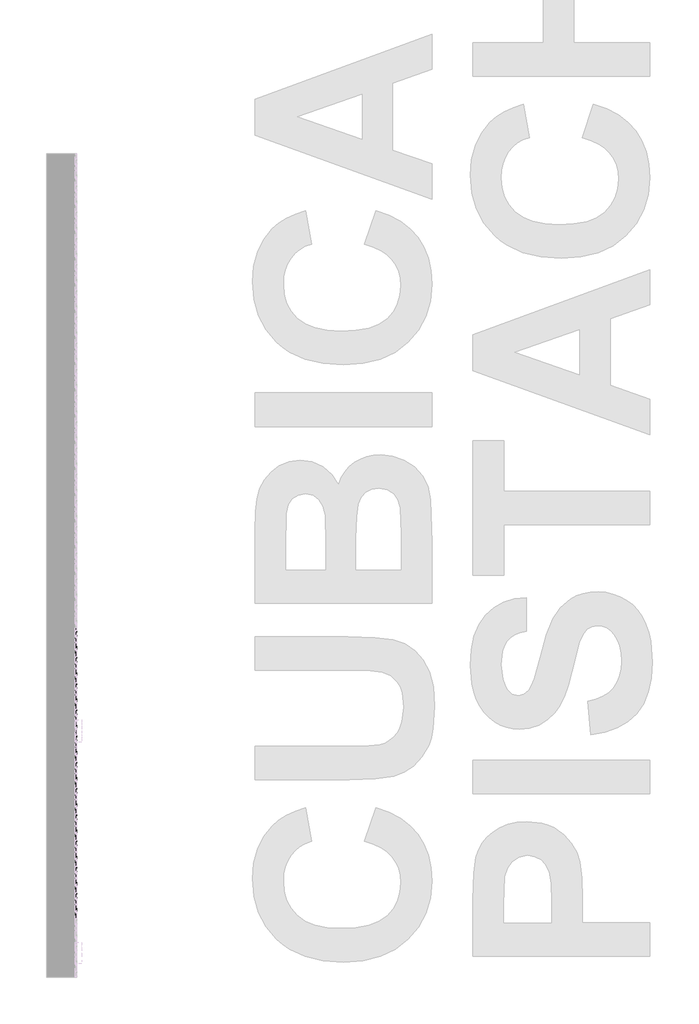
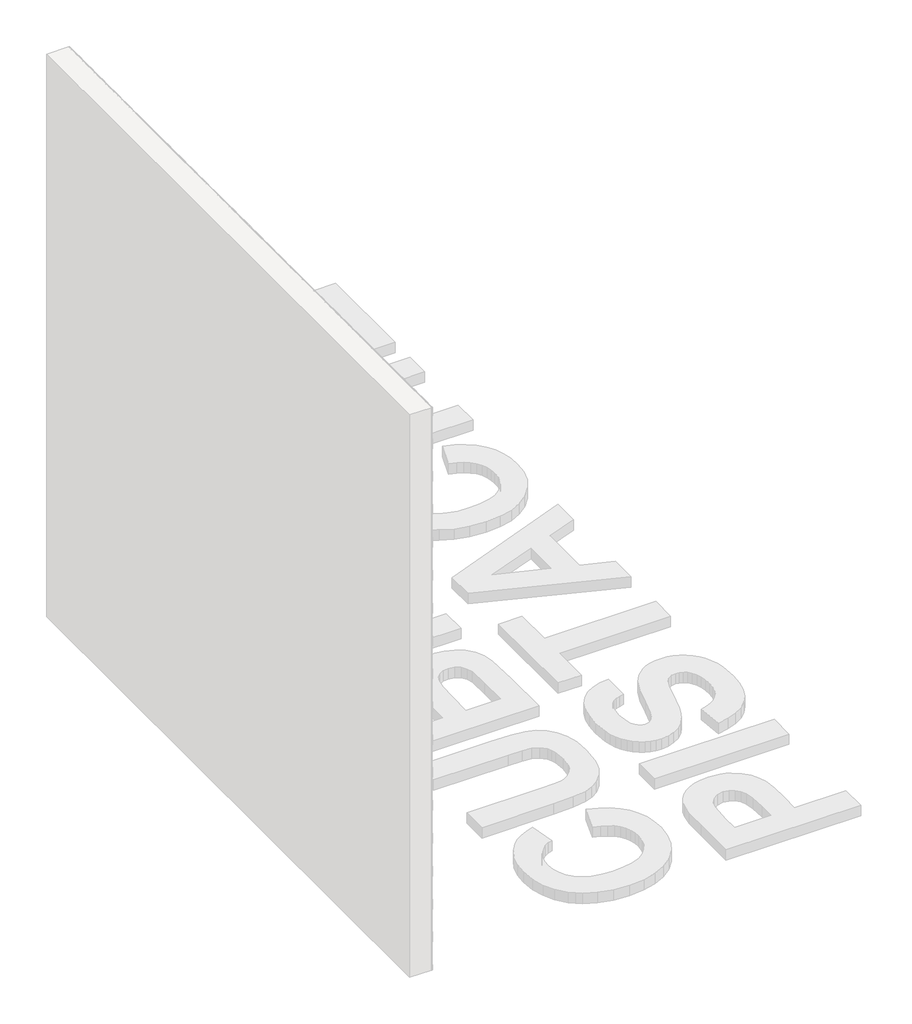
# One storey, part 79 of 121: 145 proxies.
"""IFC4 building model written with IfcOpenShell, lengths in millimetres."""

from ifc_helpers import new_model, si_unit, origin, place, context, project, spatial, transform, mapped, element, save
from components import generic_models_b2b2c5c1, generic_models_9bf73f6f, generic_models_5d175859

model = new_model("IFC4")

# Units and contexts
model_context = context("Model", 3, world=origin())
ifc_project = project(units=[si_unit("LENGTHUNIT", "METRE", prefix="MILLI")], contexts=[model_context])

# Site, building, storey
site = spatial("IfcSite", under=ifc_project)
building = spatial("IfcBuilding", under=site)
storey = spatial("IfcBuildingStorey", under=building, Name="PORTOBELLO - SHOWROOM", Elevation=0.0)

# Proxies
placement = place(None, origin())
generic_models_shape = generic_models_b2b2c5c1(model_context)
element("IfcBuildingElementProxy", 1, Name="PBSHOP - CUBICA PISTACHE 4,8X8,3 : CUBICA PISTACHE - POSIÇÃO 01", ObjectType="PBSHOP - CUBICA PISTACHE 4,8X8,3 : CUBICA PISTACHE - POSIÇÃO 01", at=placement, inside=storey, context=model_context, shape_type="MappedRepresentation", body=[
    mapped(generic_models_shape, transform((150369.5341846, 13023.6459187, 1223.4417424), x_axis=(0.0, 1.0, 0.0), y_axis=(0.0, 0.0, 1.0), z_axis=(1.0, 0.0, 0.0))),
])
element("IfcBuildingElementProxy", 2, Name="PBSHOP - CUBICA PISTACHE 4,8X8,3 : CUBICA PISTACHE - POSIÇÃO 01", ObjectType="PBSHOP - CUBICA PISTACHE 4,8X8,3 : CUBICA PISTACHE - POSIÇÃO 01", at=placement, inside=storey, context=model_context, shape_type="MappedRepresentation", body=[
    mapped(generic_models_shape, transform((150369.5341846, 13114.4851879, 1223.4417424), x_axis=(0.0, 1.0, 0.0), y_axis=(0.0, 0.0, 1.0), z_axis=(1.0, 0.0, 0.0))),
])
element("IfcBuildingElementProxy", 3, Name="PBSHOP - CUBICA PISTACHE 4,8X8,3 : CUBICA PISTACHE - POSIÇÃO 01", ObjectType="PBSHOP - CUBICA PISTACHE 4,8X8,3 : CUBICA PISTACHE - POSIÇÃO 01", at=placement, inside=storey, context=model_context, shape_type="MappedRepresentation", body=[
    mapped(generic_models_shape, transform((150369.5341846, 13205.3244572, 1223.4417424), x_axis=(0.0, 1.0, 0.0), y_axis=(0.0, 0.0, 1.0), z_axis=(1.0, 0.0, 0.0))),
])
element("IfcBuildingElementProxy", 4, Name="PBSHOP - CUBICA PISTACHE 4,8X8,3 : CUBICA PISTACHE - POSIÇÃO 01", ObjectType="PBSHOP - CUBICA PISTACHE 4,8X8,3 : CUBICA PISTACHE - POSIÇÃO 01", at=placement, inside=storey, context=model_context, shape_type="MappedRepresentation", body=[
    mapped(generic_models_shape, transform((150369.5341846, 13296.1637264, 1223.4417424), x_axis=(0.0, 1.0, 0.0), y_axis=(0.0, 0.0, 1.0), z_axis=(1.0, 0.0, 0.0))),
])
element("IfcBuildingElementProxy", 5, Name="PBSHOP - CUBICA PISTACHE 4,8X8,3 : CUBICA PISTACHE - POSIÇÃO 01", ObjectType="PBSHOP - CUBICA PISTACHE 4,8X8,3 : CUBICA PISTACHE - POSIÇÃO 01", at=placement, inside=storey, context=model_context, shape_type="MappedRepresentation", body=[
    mapped(generic_models_shape, transform((150369.5341846, 13387.0029957, 1223.4417424), x_axis=(0.0, 1.0, 0.0), y_axis=(0.0, 0.0, 1.0), z_axis=(1.0, 0.0, 0.0))),
])
element("IfcBuildingElementProxy", 6, Name="PBSHOP - CUBICA PISTACHE 4,8X8,3 : CUBICA PISTACHE - POSIÇÃO 01", ObjectType="PBSHOP - CUBICA PISTACHE 4,8X8,3 : CUBICA PISTACHE - POSIÇÃO 01", at=placement, inside=storey, context=model_context, shape_type="MappedRepresentation", body=[
    mapped(generic_models_shape, transform((150369.5341846, 13477.8422649, 1223.4417424), x_axis=(0.0, 1.0, 0.0), y_axis=(0.0, 0.0, 1.0), z_axis=(1.0, 0.0, 0.0))),
])
element("IfcBuildingElementProxy", 7, Name="PBSHOP - CUBICA PISTACHE 4,8X8,3 : CUBICA PISTACHE - POSIÇÃO 01", ObjectType="PBSHOP - CUBICA PISTACHE 4,8X8,3 : CUBICA PISTACHE - POSIÇÃO 01", at=placement, inside=storey, context=model_context, shape_type="MappedRepresentation", body=[
    mapped(generic_models_shape, transform((150369.5341846, 13568.6815341, 1223.4417424), x_axis=(0.0, 1.0, 0.0), y_axis=(0.0, 0.0, 1.0), z_axis=(1.0, 0.0, 0.0))),
])
element("IfcBuildingElementProxy", 8, Name="PBSHOP - CUBICA PISTACHE 4,8X8,3 : CUBICA PISTACHE - POSIÇÃO 01", ObjectType="PBSHOP - CUBICA PISTACHE 4,8X8,3 : CUBICA PISTACHE - POSIÇÃO 01", at=placement, inside=storey, context=model_context, shape_type="MappedRepresentation", body=[
    mapped(generic_models_shape, transform((150369.5341846, 13659.5208034, 1223.4417424), x_axis=(0.0, 1.0, 0.0), y_axis=(0.0, 0.0, 1.0), z_axis=(1.0, 0.0, 0.0))),
])
element("IfcBuildingElementProxy", 9, Name="PBSHOP - CUBICA PISTACHE 4,8X8,3 : CUBICA PISTACHE - POSIÇÃO 01", ObjectType="PBSHOP - CUBICA PISTACHE 4,8X8,3 : CUBICA PISTACHE - POSIÇÃO 01", at=placement, inside=storey, context=model_context, shape_type="MappedRepresentation", body=[
    mapped(generic_models_shape, transform((150369.5341846, 13750.3600726, 1223.4417424), x_axis=(0.0, 1.0, 0.0), y_axis=(0.0, 0.0, 1.0), z_axis=(1.0, 0.0, 0.0))),
])
element("IfcBuildingElementProxy", 10, Name="PBSHOP - CUBICA PISTACHE 4,8X8,3 : CUBICA PISTACHE - POSIÇÃO 01", ObjectType="PBSHOP - CUBICA PISTACHE 4,8X8,3 : CUBICA PISTACHE - POSIÇÃO 01", at=placement, inside=storey, context=model_context, shape_type="MappedRepresentation", body=[
    mapped(generic_models_shape, transform((150369.5341846, 13841.1993419, 1223.4417424), x_axis=(0.0, 1.0, 0.0), y_axis=(0.0, 0.0, 1.0), z_axis=(1.0, 0.0, 0.0))),
])
element("IfcBuildingElementProxy", 11, Name="PBSHOP - CUBICA PISTACHE 4,8X8,3 : CUBICA PISTACHE - POSIÇÃO 01", ObjectType="PBSHOP - CUBICA PISTACHE 4,8X8,3 : CUBICA PISTACHE - POSIÇÃO 01", at=placement, inside=storey, context=model_context, shape_type="MappedRepresentation", body=[
    mapped(generic_models_shape, transform((150369.5341846, 13932.0386111, 1223.4417424), x_axis=(0.0, 1.0, 0.0), y_axis=(0.0, 0.0, 1.0), z_axis=(1.0, 0.0, 0.0))),
])
element("IfcBuildingElementProxy", 12, Name="PBSHOP - CUBICA PISTACHE 4,8X8,3 : CUBICA PISTACHE - POSIÇÃO 01", ObjectType="PBSHOP - CUBICA PISTACHE 4,8X8,3 : CUBICA PISTACHE - POSIÇÃO 01", at=placement, inside=storey, context=model_context, shape_type="MappedRepresentation", body=[
    mapped(generic_models_shape, transform((150369.5341846, 13069.0655533, 1302.3763808), x_axis=(0.0, 1.0, 0.0), y_axis=(0.0, 0.0, 1.0), z_axis=(1.0, 0.0, 0.0))),
])
element("IfcBuildingElementProxy", 13, Name="PBSHOP - CUBICA PISTACHE 4,8X8,3 : CUBICA PISTACHE - POSIÇÃO 01", ObjectType="PBSHOP - CUBICA PISTACHE 4,8X8,3 : CUBICA PISTACHE - POSIÇÃO 01", at=placement, inside=storey, context=model_context, shape_type="MappedRepresentation", body=[
    mapped(generic_models_shape, transform((150369.5341846, 13159.9048225, 1302.3763808), x_axis=(0.0, 1.0, 0.0), y_axis=(0.0, 0.0, 1.0), z_axis=(1.0, 0.0, 0.0))),
])
element("IfcBuildingElementProxy", 14, Name="PBSHOP - CUBICA PISTACHE 4,8X8,3 : CUBICA PISTACHE - POSIÇÃO 01", ObjectType="PBSHOP - CUBICA PISTACHE 4,8X8,3 : CUBICA PISTACHE - POSIÇÃO 01", at=placement, inside=storey, context=model_context, shape_type="MappedRepresentation", body=[
    mapped(generic_models_shape, transform((150369.5341846, 13250.7440918, 1302.3763808), x_axis=(0.0, 1.0, 0.0), y_axis=(0.0, 0.0, 1.0), z_axis=(1.0, 0.0, 0.0))),
])
element("IfcBuildingElementProxy", 15, Name="PBSHOP - CUBICA PISTACHE 4,8X8,3 : CUBICA PISTACHE - POSIÇÃO 01", ObjectType="PBSHOP - CUBICA PISTACHE 4,8X8,3 : CUBICA PISTACHE - POSIÇÃO 01", at=placement, inside=storey, context=model_context, shape_type="MappedRepresentation", body=[
    mapped(generic_models_shape, transform((150369.5341846, 13341.583361, 1302.3763808), x_axis=(0.0, 1.0, 0.0), y_axis=(0.0, 0.0, 1.0), z_axis=(1.0, 0.0, 0.0))),
])
element("IfcBuildingElementProxy", 16, Name="PBSHOP - CUBICA PISTACHE 4,8X8,3 : CUBICA PISTACHE - POSIÇÃO 01", ObjectType="PBSHOP - CUBICA PISTACHE 4,8X8,3 : CUBICA PISTACHE - POSIÇÃO 01", at=placement, inside=storey, context=model_context, shape_type="MappedRepresentation", body=[
    mapped(generic_models_shape, transform((150369.5341846, 13432.4226303, 1302.3763808), x_axis=(0.0, 1.0, 0.0), y_axis=(0.0, 0.0, 1.0), z_axis=(1.0, 0.0, 0.0))),
])
element("IfcBuildingElementProxy", 17, Name="PBSHOP - CUBICA PISTACHE 4,8X8,3 : CUBICA PISTACHE - POSIÇÃO 01", ObjectType="PBSHOP - CUBICA PISTACHE 4,8X8,3 : CUBICA PISTACHE - POSIÇÃO 01", at=placement, inside=storey, context=model_context, shape_type="MappedRepresentation", body=[
    mapped(generic_models_shape, transform((150369.5341846, 13523.2618995, 1302.3763808), x_axis=(0.0, 1.0, 0.0), y_axis=(0.0, 0.0, 1.0), z_axis=(1.0, 0.0, 0.0))),
])
element("IfcBuildingElementProxy", 18, Name="PBSHOP - CUBICA PISTACHE 4,8X8,3 : CUBICA PISTACHE - POSIÇÃO 01", ObjectType="PBSHOP - CUBICA PISTACHE 4,8X8,3 : CUBICA PISTACHE - POSIÇÃO 01", at=placement, inside=storey, context=model_context, shape_type="MappedRepresentation", body=[
    mapped(generic_models_shape, transform((150369.5341846, 13614.1011688, 1302.3763808), x_axis=(0.0, 1.0, 0.0), y_axis=(0.0, 0.0, 1.0), z_axis=(1.0, 0.0, 0.0))),
])
element("IfcBuildingElementProxy", 19, Name="PBSHOP - CUBICA PISTACHE 4,8X8,3 : CUBICA PISTACHE - POSIÇÃO 01", ObjectType="PBSHOP - CUBICA PISTACHE 4,8X8,3 : CUBICA PISTACHE - POSIÇÃO 01", at=placement, inside=storey, context=model_context, shape_type="MappedRepresentation", body=[
    mapped(generic_models_shape, transform((150369.5341846, 13704.940438, 1302.3763808), x_axis=(0.0, 1.0, 0.0), y_axis=(0.0, 0.0, 1.0), z_axis=(1.0, 0.0, 0.0))),
])
element("IfcBuildingElementProxy", 20, Name="PBSHOP - CUBICA PISTACHE 4,8X8,3 : CUBICA PISTACHE - POSIÇÃO 01", ObjectType="PBSHOP - CUBICA PISTACHE 4,8X8,3 : CUBICA PISTACHE - POSIÇÃO 01", at=placement, inside=storey, context=model_context, shape_type="MappedRepresentation", body=[
    mapped(generic_models_shape, transform((150369.5341846, 13795.7797073, 1302.3763808), x_axis=(0.0, 1.0, 0.0), y_axis=(0.0, 0.0, 1.0), z_axis=(1.0, 0.0, 0.0))),
])
element("IfcBuildingElementProxy", 21, Name="PBSHOP - CUBICA PISTACHE 4,8X8,3 : CUBICA PISTACHE - POSIÇÃO 01", ObjectType="PBSHOP - CUBICA PISTACHE 4,8X8,3 : CUBICA PISTACHE - POSIÇÃO 01", at=placement, inside=storey, context=model_context, shape_type="MappedRepresentation", body=[
    mapped(generic_models_shape, transform((150369.5341846, 13886.6189765, 1302.3763808), x_axis=(0.0, 1.0, 0.0), y_axis=(0.0, 0.0, 1.0), z_axis=(1.0, 0.0, 0.0))),
])
element("IfcBuildingElementProxy", 22, Name="PBSHOP - CUBICA PISTACHE 4,8X8,3 : CUBICA PISTACHE - POSIÇÃO 01", ObjectType="PBSHOP - CUBICA PISTACHE 4,8X8,3 : CUBICA PISTACHE - POSIÇÃO 01", at=placement, inside=storey, context=model_context, shape_type="MappedRepresentation", body=[
    mapped(generic_models_shape, transform((150369.5341846, 13977.4582457, 1302.3763808), x_axis=(0.0, 1.0, 0.0), y_axis=(0.0, 0.0, 1.0), z_axis=(1.0, 0.0, 0.0))),
])
element("IfcBuildingElementProxy", 23, Name="PBSHOP - CUBICA PISTACHE 4,8X8,3 : CUBICA PISTACHE - POSIÇÃO 01", ObjectType="PBSHOP - CUBICA PISTACHE 4,8X8,3 : CUBICA PISTACHE - POSIÇÃO 01", at=placement, inside=storey, context=model_context, shape_type="MappedRepresentation", body=[
    mapped(generic_models_shape, transform((150369.5341846, 13023.6459187, 1381.3110192), x_axis=(0.0, 1.0, 0.0), y_axis=(0.0, 0.0, 1.0), z_axis=(1.0, 0.0, 0.0))),
])
element("IfcBuildingElementProxy", 24, Name="PBSHOP - CUBICA PISTACHE 4,8X8,3 : CUBICA PISTACHE - POSIÇÃO 01", ObjectType="PBSHOP - CUBICA PISTACHE 4,8X8,3 : CUBICA PISTACHE - POSIÇÃO 01", at=placement, inside=storey, context=model_context, shape_type="MappedRepresentation", body=[
    mapped(generic_models_shape, transform((150369.5341846, 13114.4851879, 1381.3110192), x_axis=(0.0, 1.0, 0.0), y_axis=(0.0, 0.0, 1.0), z_axis=(1.0, 0.0, 0.0))),
])
element("IfcBuildingElementProxy", 25, Name="PBSHOP - CUBICA PISTACHE 4,8X8,3 : CUBICA PISTACHE - POSIÇÃO 01", ObjectType="PBSHOP - CUBICA PISTACHE 4,8X8,3 : CUBICA PISTACHE - POSIÇÃO 01", at=placement, inside=storey, context=model_context, shape_type="MappedRepresentation", body=[
    mapped(generic_models_shape, transform((150369.5341846, 13205.3244572, 1381.3110192), x_axis=(0.0, 1.0, 0.0), y_axis=(0.0, 0.0, 1.0), z_axis=(1.0, 0.0, 0.0))),
])
element("IfcBuildingElementProxy", 26, Name="PBSHOP - CUBICA PISTACHE 4,8X8,3 : CUBICA PISTACHE - POSIÇÃO 01", ObjectType="PBSHOP - CUBICA PISTACHE 4,8X8,3 : CUBICA PISTACHE - POSIÇÃO 01", at=placement, inside=storey, context=model_context, shape_type="MappedRepresentation", body=[
    mapped(generic_models_shape, transform((150369.5341846, 13296.1637264, 1381.3110192), x_axis=(0.0, 1.0, 0.0), y_axis=(0.0, 0.0, 1.0), z_axis=(1.0, 0.0, 0.0))),
])
element("IfcBuildingElementProxy", 27, Name="PBSHOP - CUBICA PISTACHE 4,8X8,3 : CUBICA PISTACHE - POSIÇÃO 01", ObjectType="PBSHOP - CUBICA PISTACHE 4,8X8,3 : CUBICA PISTACHE - POSIÇÃO 01", at=placement, inside=storey, context=model_context, shape_type="MappedRepresentation", body=[
    mapped(generic_models_shape, transform((150369.5341846, 13387.0029957, 1381.3110192), x_axis=(0.0, 1.0, 0.0), y_axis=(0.0, 0.0, 1.0), z_axis=(1.0, 0.0, 0.0))),
])
element("IfcBuildingElementProxy", 28, Name="PBSHOP - CUBICA PISTACHE 4,8X8,3 : CUBICA PISTACHE - POSIÇÃO 01", ObjectType="PBSHOP - CUBICA PISTACHE 4,8X8,3 : CUBICA PISTACHE - POSIÇÃO 01", at=placement, inside=storey, context=model_context, shape_type="MappedRepresentation", body=[
    mapped(generic_models_shape, transform((150369.5341846, 13477.8422649, 1381.3110192), x_axis=(0.0, 1.0, 0.0), y_axis=(0.0, 0.0, 1.0), z_axis=(1.0, 0.0, 0.0))),
])
element("IfcBuildingElementProxy", 29, Name="PBSHOP - CUBICA PISTACHE 4,8X8,3 : CUBICA PISTACHE - POSIÇÃO 01", ObjectType="PBSHOP - CUBICA PISTACHE 4,8X8,3 : CUBICA PISTACHE - POSIÇÃO 01", at=placement, inside=storey, context=model_context, shape_type="MappedRepresentation", body=[
    mapped(generic_models_shape, transform((150369.5341846, 13568.6815341, 1381.3110192), x_axis=(0.0, 1.0, 0.0), y_axis=(0.0, 0.0, 1.0), z_axis=(1.0, 0.0, 0.0))),
])
element("IfcBuildingElementProxy", 30, Name="PBSHOP - CUBICA PISTACHE 4,8X8,3 : CUBICA PISTACHE - POSIÇÃO 01", ObjectType="PBSHOP - CUBICA PISTACHE 4,8X8,3 : CUBICA PISTACHE - POSIÇÃO 01", at=placement, inside=storey, context=model_context, shape_type="MappedRepresentation", body=[
    mapped(generic_models_shape, transform((150369.5341846, 13659.5208034, 1381.3110192), x_axis=(0.0, 1.0, 0.0), y_axis=(0.0, 0.0, 1.0), z_axis=(1.0, 0.0, 0.0))),
])
element("IfcBuildingElementProxy", 31, Name="PBSHOP - CUBICA PISTACHE 4,8X8,3 : CUBICA PISTACHE - POSIÇÃO 01", ObjectType="PBSHOP - CUBICA PISTACHE 4,8X8,3 : CUBICA PISTACHE - POSIÇÃO 01", at=placement, inside=storey, context=model_context, shape_type="MappedRepresentation", body=[
    mapped(generic_models_shape, transform((150369.5341846, 13750.3600726, 1381.3110192), x_axis=(0.0, 1.0, 0.0), y_axis=(0.0, 0.0, 1.0), z_axis=(1.0, 0.0, 0.0))),
])
element("IfcBuildingElementProxy", 32, Name="PBSHOP - CUBICA PISTACHE 4,8X8,3 : CUBICA PISTACHE - POSIÇÃO 01", ObjectType="PBSHOP - CUBICA PISTACHE 4,8X8,3 : CUBICA PISTACHE - POSIÇÃO 01", at=placement, inside=storey, context=model_context, shape_type="MappedRepresentation", body=[
    mapped(generic_models_shape, transform((150369.5341846, 13841.1993419, 1381.3110192), x_axis=(0.0, 1.0, 0.0), y_axis=(0.0, 0.0, 1.0), z_axis=(1.0, 0.0, 0.0))),
])
element("IfcBuildingElementProxy", 33, Name="PBSHOP - CUBICA PISTACHE 4,8X8,3 : CUBICA PISTACHE - POSIÇÃO 01", ObjectType="PBSHOP - CUBICA PISTACHE 4,8X8,3 : CUBICA PISTACHE - POSIÇÃO 01", at=placement, inside=storey, context=model_context, shape_type="MappedRepresentation", body=[
    mapped(generic_models_shape, transform((150369.5341846, 13932.0386111, 1381.3110192), x_axis=(0.0, 1.0, 0.0), y_axis=(0.0, 0.0, 1.0), z_axis=(1.0, 0.0, 0.0))),
])
element("IfcBuildingElementProxy", 34, Name="PBSHOP - CUBICA PISTACHE 4,8X8,3 : CUBICA PISTACHE - POSIÇÃO 01", ObjectType="PBSHOP - CUBICA PISTACHE 4,8X8,3 : CUBICA PISTACHE - POSIÇÃO 01", at=placement, inside=storey, context=model_context, shape_type="MappedRepresentation", body=[
    mapped(generic_models_shape, transform((150369.5341846, 13069.0655533, 1460.2456575), x_axis=(0.0, 1.0, 0.0), y_axis=(0.0, 0.0, 1.0), z_axis=(1.0, 0.0, 0.0))),
])
element("IfcBuildingElementProxy", 35, Name="PBSHOP - CUBICA PISTACHE 4,8X8,3 : CUBICA PISTACHE - POSIÇÃO 01", ObjectType="PBSHOP - CUBICA PISTACHE 4,8X8,3 : CUBICA PISTACHE - POSIÇÃO 01", at=placement, inside=storey, context=model_context, shape_type="MappedRepresentation", body=[
    mapped(generic_models_shape, transform((150369.5341846, 13159.9048225, 1460.2456575), x_axis=(0.0, 1.0, 0.0), y_axis=(0.0, 0.0, 1.0), z_axis=(1.0, 0.0, 0.0))),
])
element("IfcBuildingElementProxy", 36, Name="PBSHOP - CUBICA PISTACHE 4,8X8,3 : CUBICA PISTACHE - POSIÇÃO 01", ObjectType="PBSHOP - CUBICA PISTACHE 4,8X8,3 : CUBICA PISTACHE - POSIÇÃO 01", at=placement, inside=storey, context=model_context, shape_type="MappedRepresentation", body=[
    mapped(generic_models_shape, transform((150369.5341846, 13250.7440918, 1460.2456575), x_axis=(0.0, 1.0, 0.0), y_axis=(0.0, 0.0, 1.0), z_axis=(1.0, 0.0, 0.0))),
])
element("IfcBuildingElementProxy", 37, Name="PBSHOP - CUBICA PISTACHE 4,8X8,3 : CUBICA PISTACHE - POSIÇÃO 01", ObjectType="PBSHOP - CUBICA PISTACHE 4,8X8,3 : CUBICA PISTACHE - POSIÇÃO 01", at=placement, inside=storey, context=model_context, shape_type="MappedRepresentation", body=[
    mapped(generic_models_shape, transform((150369.5341846, 13341.583361, 1460.2456575), x_axis=(0.0, 1.0, 0.0), y_axis=(0.0, 0.0, 1.0), z_axis=(1.0, 0.0, 0.0))),
])
element("IfcBuildingElementProxy", 38, Name="PBSHOP - CUBICA PISTACHE 4,8X8,3 : CUBICA PISTACHE - POSIÇÃO 01", ObjectType="PBSHOP - CUBICA PISTACHE 4,8X8,3 : CUBICA PISTACHE - POSIÇÃO 01", at=placement, inside=storey, context=model_context, shape_type="MappedRepresentation", body=[
    mapped(generic_models_shape, transform((150369.5341846, 13432.4226303, 1460.2456575), x_axis=(0.0, 1.0, 0.0), y_axis=(0.0, 0.0, 1.0), z_axis=(1.0, 0.0, 0.0))),
])
element("IfcBuildingElementProxy", 39, Name="PBSHOP - CUBICA PISTACHE 4,8X8,3 : CUBICA PISTACHE - POSIÇÃO 01", ObjectType="PBSHOP - CUBICA PISTACHE 4,8X8,3 : CUBICA PISTACHE - POSIÇÃO 01", at=placement, inside=storey, context=model_context, shape_type="MappedRepresentation", body=[
    mapped(generic_models_shape, transform((150369.5341846, 13523.2618995, 1460.2456575), x_axis=(0.0, 1.0, 0.0), y_axis=(0.0, 0.0, 1.0), z_axis=(1.0, 0.0, 0.0))),
])
element("IfcBuildingElementProxy", 40, Name="PBSHOP - CUBICA PISTACHE 4,8X8,3 : CUBICA PISTACHE - POSIÇÃO 01", ObjectType="PBSHOP - CUBICA PISTACHE 4,8X8,3 : CUBICA PISTACHE - POSIÇÃO 01", at=placement, inside=storey, context=model_context, shape_type="MappedRepresentation", body=[
    mapped(generic_models_shape, transform((150369.5341846, 13614.1011688, 1460.2456575), x_axis=(0.0, 1.0, 0.0), y_axis=(0.0, 0.0, 1.0), z_axis=(1.0, 0.0, 0.0))),
])
element("IfcBuildingElementProxy", 41, Name="PBSHOP - CUBICA PISTACHE 4,8X8,3 : CUBICA PISTACHE - POSIÇÃO 01", ObjectType="PBSHOP - CUBICA PISTACHE 4,8X8,3 : CUBICA PISTACHE - POSIÇÃO 01", at=placement, inside=storey, context=model_context, shape_type="MappedRepresentation", body=[
    mapped(generic_models_shape, transform((150369.5341846, 13704.940438, 1460.2456575), x_axis=(0.0, 1.0, 0.0), y_axis=(0.0, 0.0, 1.0), z_axis=(1.0, 0.0, 0.0))),
])
element("IfcBuildingElementProxy", 42, Name="PBSHOP - CUBICA PISTACHE 4,8X8,3 : CUBICA PISTACHE - POSIÇÃO 01", ObjectType="PBSHOP - CUBICA PISTACHE 4,8X8,3 : CUBICA PISTACHE - POSIÇÃO 01", at=placement, inside=storey, context=model_context, shape_type="MappedRepresentation", body=[
    mapped(generic_models_shape, transform((150369.5341846, 13795.7797073, 1460.2456575), x_axis=(0.0, 1.0, 0.0), y_axis=(0.0, 0.0, 1.0), z_axis=(1.0, 0.0, 0.0))),
])
element("IfcBuildingElementProxy", 43, Name="PBSHOP - CUBICA PISTACHE 4,8X8,3 : CUBICA PISTACHE - POSIÇÃO 01", ObjectType="PBSHOP - CUBICA PISTACHE 4,8X8,3 : CUBICA PISTACHE - POSIÇÃO 01", at=placement, inside=storey, context=model_context, shape_type="MappedRepresentation", body=[
    mapped(generic_models_shape, transform((150369.5341846, 13886.6189765, 1460.2456575), x_axis=(0.0, 1.0, 0.0), y_axis=(0.0, 0.0, 1.0), z_axis=(1.0, 0.0, 0.0))),
])
element("IfcBuildingElementProxy", 44, Name="PBSHOP - CUBICA PISTACHE 4,8X8,3 : CUBICA PISTACHE - POSIÇÃO 01", ObjectType="PBSHOP - CUBICA PISTACHE 4,8X8,3 : CUBICA PISTACHE - POSIÇÃO 01", at=placement, inside=storey, context=model_context, shape_type="MappedRepresentation", body=[
    mapped(generic_models_shape, transform((150369.5341846, 13977.4582457, 1460.2456575), x_axis=(0.0, 1.0, 0.0), y_axis=(0.0, 0.0, 1.0), z_axis=(1.0, 0.0, 0.0))),
])
element("IfcBuildingElementProxy", 45, Name="PBSHOP - CUBICA PISTACHE 4,8X8,3 : CUBICA PISTACHE - POSIÇÃO 01", ObjectType="PBSHOP - CUBICA PISTACHE 4,8X8,3 : CUBICA PISTACHE - POSIÇÃO 01", at=placement, inside=storey, context=model_context, shape_type="MappedRepresentation", body=[
    mapped(generic_models_shape, transform((150369.5341846, 13023.6459187, 1539.1802959), x_axis=(0.0, 1.0, 0.0), y_axis=(0.0, 0.0, 1.0), z_axis=(1.0, 0.0, 0.0))),
])
element("IfcBuildingElementProxy", 46, Name="PBSHOP - CUBICA PISTACHE 4,8X8,3 : CUBICA PISTACHE - POSIÇÃO 01", ObjectType="PBSHOP - CUBICA PISTACHE 4,8X8,3 : CUBICA PISTACHE - POSIÇÃO 01", at=placement, inside=storey, context=model_context, shape_type="MappedRepresentation", body=[
    mapped(generic_models_shape, transform((150369.5341846, 13114.4851879, 1539.1802959), x_axis=(0.0, 1.0, 0.0), y_axis=(0.0, 0.0, 1.0), z_axis=(1.0, 0.0, 0.0))),
])
element("IfcBuildingElementProxy", 47, Name="PBSHOP - CUBICA PISTACHE 4,8X8,3 : CUBICA PISTACHE - POSIÇÃO 01", ObjectType="PBSHOP - CUBICA PISTACHE 4,8X8,3 : CUBICA PISTACHE - POSIÇÃO 01", at=placement, inside=storey, context=model_context, shape_type="MappedRepresentation", body=[
    mapped(generic_models_shape, transform((150369.5341846, 13205.3244572, 1539.1802959), x_axis=(0.0, 1.0, 0.0), y_axis=(0.0, 0.0, 1.0), z_axis=(1.0, 0.0, 0.0))),
])
generic_models_2_shape = generic_models_9bf73f6f(model_context)
element("IfcBuildingElementProxy", 48, Name="PBSHOP - CUBICA PISTACHE 4,8X8,3 : CUBICA PISTACHE - POSIÇÃO 03", ObjectType="PBSHOP - CUBICA PISTACHE 4,8X8,3 : CUBICA PISTACHE - POSIÇÃO 03", at=placement, inside=storey, context=model_context, shape_type="MappedRepresentation", body=[
    mapped(generic_models_2_shape, transform((150369.5341846, 13318.8757029, 1104.9985744), x_axis=(0.0, 1.0, 0.0), y_axis=(0.0, 0.0, 1.0), z_axis=(1.0, 0.0, 0.0))),
])
element("IfcBuildingElementProxy", 49, Name="PBSHOP - CUBICA PISTACHE 4,8X8,3 : CUBICA PISTACHE - POSIÇÃO 03", ObjectType="PBSHOP - CUBICA PISTACHE 4,8X8,3 : CUBICA PISTACHE - POSIÇÃO 03", at=placement, inside=storey, context=model_context, shape_type="MappedRepresentation", body=[
    mapped(generic_models_2_shape, transform((150369.5341846, 13409.7149721, 1104.9985744), x_axis=(0.0, 1.0, 0.0), y_axis=(0.0, 0.0, 1.0), z_axis=(1.0, 0.0, 0.0))),
])
element("IfcBuildingElementProxy", 50, Name="PBSHOP - CUBICA PISTACHE 4,8X8,3 : CUBICA PISTACHE - POSIÇÃO 03", ObjectType="PBSHOP - CUBICA PISTACHE 4,8X8,3 : CUBICA PISTACHE - POSIÇÃO 03", at=placement, inside=storey, context=model_context, shape_type="MappedRepresentation", body=[
    mapped(generic_models_2_shape, transform((150369.5341846, 13500.5542414, 1104.9985744), x_axis=(0.0, 1.0, 0.0), y_axis=(0.0, 0.0, 1.0), z_axis=(1.0, 0.0, 0.0))),
])
element("IfcBuildingElementProxy", 51, Name="PBSHOP - CUBICA PISTACHE 4,8X8,3 : CUBICA PISTACHE - POSIÇÃO 03", ObjectType="PBSHOP - CUBICA PISTACHE 4,8X8,3 : CUBICA PISTACHE - POSIÇÃO 03", at=placement, inside=storey, context=model_context, shape_type="MappedRepresentation", body=[
    mapped(generic_models_2_shape, transform((150369.5341846, 13591.3935106, 1104.9985744), x_axis=(0.0, 1.0, 0.0), y_axis=(0.0, 0.0, 1.0), z_axis=(1.0, 0.0, 0.0))),
])
element("IfcBuildingElementProxy", 52, Name="PBSHOP - CUBICA PISTACHE 4,8X8,3 : CUBICA PISTACHE - POSIÇÃO 03", ObjectType="PBSHOP - CUBICA PISTACHE 4,8X8,3 : CUBICA PISTACHE - POSIÇÃO 03", at=placement, inside=storey, context=model_context, shape_type="MappedRepresentation", body=[
    mapped(generic_models_2_shape, transform((150369.5341846, 13682.2327799, 1104.9985744), x_axis=(0.0, 1.0, 0.0), y_axis=(0.0, 0.0, 1.0), z_axis=(1.0, 0.0, 0.0))),
])
element("IfcBuildingElementProxy", 53, Name="PBSHOP - CUBICA PISTACHE 4,8X8,3 : CUBICA PISTACHE - POSIÇÃO 03", ObjectType="PBSHOP - CUBICA PISTACHE 4,8X8,3 : CUBICA PISTACHE - POSIÇÃO 03", at=placement, inside=storey, context=model_context, shape_type="MappedRepresentation", body=[
    mapped(generic_models_2_shape, transform((150369.5341846, 13773.0720491, 1104.9985744), x_axis=(0.0, 1.0, 0.0), y_axis=(0.0, 0.0, 1.0), z_axis=(1.0, 0.0, 0.0))),
])
element("IfcBuildingElementProxy", 54, Name="PBSHOP - CUBICA PISTACHE 4,8X8,3 : CUBICA PISTACHE - POSIÇÃO 03", ObjectType="PBSHOP - CUBICA PISTACHE 4,8X8,3 : CUBICA PISTACHE - POSIÇÃO 03", at=placement, inside=storey, context=model_context, shape_type="MappedRepresentation", body=[
    mapped(generic_models_2_shape, transform((150369.5341846, 13863.9113184, 1104.9985744), x_axis=(0.0, 1.0, 0.0), y_axis=(0.0, 0.0, 1.0), z_axis=(1.0, 0.0, 0.0))),
])
element("IfcBuildingElementProxy", 55, Name="PBSHOP - CUBICA PISTACHE 4,8X8,3 : CUBICA PISTACHE - POSIÇÃO 03", ObjectType="PBSHOP - CUBICA PISTACHE 4,8X8,3 : CUBICA PISTACHE - POSIÇÃO 03", at=placement, inside=storey, context=model_context, shape_type="MappedRepresentation", body=[
    mapped(generic_models_2_shape, transform((150369.5341846, 13954.7505876, 1104.9985744), x_axis=(0.0, 1.0, 0.0), y_axis=(0.0, 0.0, 1.0), z_axis=(1.0, 0.0, 0.0))),
])
element("IfcBuildingElementProxy", 56, Name="PBSHOP - CUBICA PISTACHE 4,8X8,3 : CUBICA PISTACHE - POSIÇÃO 03", ObjectType="PBSHOP - CUBICA PISTACHE 4,8X8,3 : CUBICA PISTACHE - POSIÇÃO 03", at=placement, inside=storey, context=model_context, shape_type="MappedRepresentation", body=[
    mapped(generic_models_2_shape, transform((150369.5341846, 13000.9382605, 1183.9332128), x_axis=(0.0, 1.0, 0.0), y_axis=(0.0, 0.0, 1.0), z_axis=(1.0, 0.0, 0.0))),
])
element("IfcBuildingElementProxy", 57, Name="PBSHOP - CUBICA PISTACHE 4,8X8,3 : CUBICA PISTACHE - POSIÇÃO 03", ObjectType="PBSHOP - CUBICA PISTACHE 4,8X8,3 : CUBICA PISTACHE - POSIÇÃO 03", at=placement, inside=storey, context=model_context, shape_type="MappedRepresentation", body=[
    mapped(generic_models_2_shape, transform((150369.5341846, 13091.7775298, 1183.9332128), x_axis=(0.0, 1.0, 0.0), y_axis=(0.0, 0.0, 1.0), z_axis=(1.0, 0.0, 0.0))),
])
element("IfcBuildingElementProxy", 58, Name="PBSHOP - CUBICA PISTACHE 4,8X8,3 : CUBICA PISTACHE - POSIÇÃO 03", ObjectType="PBSHOP - CUBICA PISTACHE 4,8X8,3 : CUBICA PISTACHE - POSIÇÃO 03", at=placement, inside=storey, context=model_context, shape_type="MappedRepresentation", body=[
    mapped(generic_models_2_shape, transform((150369.5341846, 13182.616799, 1183.9332128), x_axis=(0.0, 1.0, 0.0), y_axis=(0.0, 0.0, 1.0), z_axis=(1.0, 0.0, 0.0))),
])
element("IfcBuildingElementProxy", 59, Name="PBSHOP - CUBICA PISTACHE 4,8X8,3 : CUBICA PISTACHE - POSIÇÃO 03", ObjectType="PBSHOP - CUBICA PISTACHE 4,8X8,3 : CUBICA PISTACHE - POSIÇÃO 03", at=placement, inside=storey, context=model_context, shape_type="MappedRepresentation", body=[
    mapped(generic_models_2_shape, transform((150369.5341846, 13273.4560683, 1183.9332128), x_axis=(0.0, 1.0, 0.0), y_axis=(0.0, 0.0, 1.0), z_axis=(1.0, 0.0, 0.0))),
])
element("IfcBuildingElementProxy", 60, Name="PBSHOP - CUBICA PISTACHE 4,8X8,3 : CUBICA PISTACHE - POSIÇÃO 03", ObjectType="PBSHOP - CUBICA PISTACHE 4,8X8,3 : CUBICA PISTACHE - POSIÇÃO 03", at=placement, inside=storey, context=model_context, shape_type="MappedRepresentation", body=[
    mapped(generic_models_2_shape, transform((150369.5341846, 13364.2953375, 1183.9332128), x_axis=(0.0, 1.0, 0.0), y_axis=(0.0, 0.0, 1.0), z_axis=(1.0, 0.0, 0.0))),
])
element("IfcBuildingElementProxy", 61, Name="PBSHOP - CUBICA PISTACHE 4,8X8,3 : CUBICA PISTACHE - POSIÇÃO 03", ObjectType="PBSHOP - CUBICA PISTACHE 4,8X8,3 : CUBICA PISTACHE - POSIÇÃO 03", at=placement, inside=storey, context=model_context, shape_type="MappedRepresentation", body=[
    mapped(generic_models_2_shape, transform((150369.5341846, 13455.1346068, 1183.9332128), x_axis=(0.0, 1.0, 0.0), y_axis=(0.0, 0.0, 1.0), z_axis=(1.0, 0.0, 0.0))),
])
element("IfcBuildingElementProxy", 62, Name="PBSHOP - CUBICA PISTACHE 4,8X8,3 : CUBICA PISTACHE - POSIÇÃO 03", ObjectType="PBSHOP - CUBICA PISTACHE 4,8X8,3 : CUBICA PISTACHE - POSIÇÃO 03", at=placement, inside=storey, context=model_context, shape_type="MappedRepresentation", body=[
    mapped(generic_models_2_shape, transform((150369.5341846, 13545.973876, 1183.9332128), x_axis=(0.0, 1.0, 0.0), y_axis=(0.0, 0.0, 1.0), z_axis=(1.0, 0.0, 0.0))),
])
element("IfcBuildingElementProxy", 63, Name="PBSHOP - CUBICA PISTACHE 4,8X8,3 : CUBICA PISTACHE - POSIÇÃO 03", ObjectType="PBSHOP - CUBICA PISTACHE 4,8X8,3 : CUBICA PISTACHE - POSIÇÃO 03", at=placement, inside=storey, context=model_context, shape_type="MappedRepresentation", body=[
    mapped(generic_models_2_shape, transform((150369.5341846, 13636.8131452, 1183.9332128), x_axis=(0.0, 1.0, 0.0), y_axis=(0.0, 0.0, 1.0), z_axis=(1.0, 0.0, 0.0))),
])
element("IfcBuildingElementProxy", 64, Name="PBSHOP - CUBICA PISTACHE 4,8X8,3 : CUBICA PISTACHE - POSIÇÃO 03", ObjectType="PBSHOP - CUBICA PISTACHE 4,8X8,3 : CUBICA PISTACHE - POSIÇÃO 03", at=placement, inside=storey, context=model_context, shape_type="MappedRepresentation", body=[
    mapped(generic_models_2_shape, transform((150369.5341846, 13727.6524145, 1183.9332128), x_axis=(0.0, 1.0, 0.0), y_axis=(0.0, 0.0, 1.0), z_axis=(1.0, 0.0, 0.0))),
])
element("IfcBuildingElementProxy", 65, Name="PBSHOP - CUBICA PISTACHE 4,8X8,3 : CUBICA PISTACHE - POSIÇÃO 03", ObjectType="PBSHOP - CUBICA PISTACHE 4,8X8,3 : CUBICA PISTACHE - POSIÇÃO 03", at=placement, inside=storey, context=model_context, shape_type="MappedRepresentation", body=[
    mapped(generic_models_2_shape, transform((150369.5341846, 13818.4916837, 1183.9332128), x_axis=(0.0, 1.0, 0.0), y_axis=(0.0, 0.0, 1.0), z_axis=(1.0, 0.0, 0.0))),
])
element("IfcBuildingElementProxy", 66, Name="PBSHOP - CUBICA PISTACHE 4,8X8,3 : CUBICA PISTACHE - POSIÇÃO 03", ObjectType="PBSHOP - CUBICA PISTACHE 4,8X8,3 : CUBICA PISTACHE - POSIÇÃO 03", at=placement, inside=storey, context=model_context, shape_type="MappedRepresentation", body=[
    mapped(generic_models_2_shape, transform((150369.5341846, 13909.330953, 1183.9332128), x_axis=(0.0, 1.0, 0.0), y_axis=(0.0, 0.0, 1.0), z_axis=(1.0, 0.0, 0.0))),
])
element("IfcBuildingElementProxy", 67, Name="PBSHOP - CUBICA PISTACHE 4,8X8,3 : CUBICA PISTACHE - POSIÇÃO 03", ObjectType="PBSHOP - CUBICA PISTACHE 4,8X8,3 : CUBICA PISTACHE - POSIÇÃO 03", at=placement, inside=storey, context=model_context, shape_type="MappedRepresentation", body=[
    mapped(generic_models_2_shape, transform((150369.5341846, 13046.3578952, 1262.8678512), x_axis=(0.0, 1.0, 0.0), y_axis=(0.0, 0.0, 1.0), z_axis=(1.0, 0.0, 0.0))),
])
element("IfcBuildingElementProxy", 68, Name="PBSHOP - CUBICA PISTACHE 4,8X8,3 : CUBICA PISTACHE - POSIÇÃO 03", ObjectType="PBSHOP - CUBICA PISTACHE 4,8X8,3 : CUBICA PISTACHE - POSIÇÃO 03", at=placement, inside=storey, context=model_context, shape_type="MappedRepresentation", body=[
    mapped(generic_models_2_shape, transform((150369.5341846, 13137.1971644, 1262.8678512), x_axis=(0.0, 1.0, 0.0), y_axis=(0.0, 0.0, 1.0), z_axis=(1.0, 0.0, 0.0))),
])
element("IfcBuildingElementProxy", 69, Name="PBSHOP - CUBICA PISTACHE 4,8X8,3 : CUBICA PISTACHE - POSIÇÃO 03", ObjectType="PBSHOP - CUBICA PISTACHE 4,8X8,3 : CUBICA PISTACHE - POSIÇÃO 03", at=placement, inside=storey, context=model_context, shape_type="MappedRepresentation", body=[
    mapped(generic_models_2_shape, transform((150369.5341846, 13228.0364336, 1262.8678512), x_axis=(0.0, 1.0, 0.0), y_axis=(0.0, 0.0, 1.0), z_axis=(1.0, 0.0, 0.0))),
])
element("IfcBuildingElementProxy", 70, Name="PBSHOP - CUBICA PISTACHE 4,8X8,3 : CUBICA PISTACHE - POSIÇÃO 03", ObjectType="PBSHOP - CUBICA PISTACHE 4,8X8,3 : CUBICA PISTACHE - POSIÇÃO 03", at=placement, inside=storey, context=model_context, shape_type="MappedRepresentation", body=[
    mapped(generic_models_2_shape, transform((150369.5341846, 13318.8757029, 1262.8678512), x_axis=(0.0, 1.0, 0.0), y_axis=(0.0, 0.0, 1.0), z_axis=(1.0, 0.0, 0.0))),
])
element("IfcBuildingElementProxy", 71, Name="PBSHOP - CUBICA PISTACHE 4,8X8,3 : CUBICA PISTACHE - POSIÇÃO 03", ObjectType="PBSHOP - CUBICA PISTACHE 4,8X8,3 : CUBICA PISTACHE - POSIÇÃO 03", at=placement, inside=storey, context=model_context, shape_type="MappedRepresentation", body=[
    mapped(generic_models_2_shape, transform((150369.5341846, 13409.7149721, 1262.8678512), x_axis=(0.0, 1.0, 0.0), y_axis=(0.0, 0.0, 1.0), z_axis=(1.0, 0.0, 0.0))),
])
element("IfcBuildingElementProxy", 72, Name="PBSHOP - CUBICA PISTACHE 4,8X8,3 : CUBICA PISTACHE - POSIÇÃO 03", ObjectType="PBSHOP - CUBICA PISTACHE 4,8X8,3 : CUBICA PISTACHE - POSIÇÃO 03", at=placement, inside=storey, context=model_context, shape_type="MappedRepresentation", body=[
    mapped(generic_models_2_shape, transform((150369.5341846, 13500.5542414, 1262.8678512), x_axis=(0.0, 1.0, 0.0), y_axis=(0.0, 0.0, 1.0), z_axis=(1.0, 0.0, 0.0))),
])
element("IfcBuildingElementProxy", 73, Name="PBSHOP - CUBICA PISTACHE 4,8X8,3 : CUBICA PISTACHE - POSIÇÃO 03", ObjectType="PBSHOP - CUBICA PISTACHE 4,8X8,3 : CUBICA PISTACHE - POSIÇÃO 03", at=placement, inside=storey, context=model_context, shape_type="MappedRepresentation", body=[
    mapped(generic_models_2_shape, transform((150369.5341846, 13591.3935106, 1262.8678512), x_axis=(0.0, 1.0, 0.0), y_axis=(0.0, 0.0, 1.0), z_axis=(1.0, 0.0, 0.0))),
])
element("IfcBuildingElementProxy", 74, Name="PBSHOP - CUBICA PISTACHE 4,8X8,3 : CUBICA PISTACHE - POSIÇÃO 03", ObjectType="PBSHOP - CUBICA PISTACHE 4,8X8,3 : CUBICA PISTACHE - POSIÇÃO 03", at=placement, inside=storey, context=model_context, shape_type="MappedRepresentation", body=[
    mapped(generic_models_2_shape, transform((150369.5341846, 13682.2327799, 1262.8678512), x_axis=(0.0, 1.0, 0.0), y_axis=(0.0, 0.0, 1.0), z_axis=(1.0, 0.0, 0.0))),
])
element("IfcBuildingElementProxy", 75, Name="PBSHOP - CUBICA PISTACHE 4,8X8,3 : CUBICA PISTACHE - POSIÇÃO 03", ObjectType="PBSHOP - CUBICA PISTACHE 4,8X8,3 : CUBICA PISTACHE - POSIÇÃO 03", at=placement, inside=storey, context=model_context, shape_type="MappedRepresentation", body=[
    mapped(generic_models_2_shape, transform((150369.5341846, 13773.0720491, 1262.8678512), x_axis=(0.0, 1.0, 0.0), y_axis=(0.0, 0.0, 1.0), z_axis=(1.0, 0.0, 0.0))),
])
element("IfcBuildingElementProxy", 76, Name="PBSHOP - CUBICA PISTACHE 4,8X8,3 : CUBICA PISTACHE - POSIÇÃO 03", ObjectType="PBSHOP - CUBICA PISTACHE 4,8X8,3 : CUBICA PISTACHE - POSIÇÃO 03", at=placement, inside=storey, context=model_context, shape_type="MappedRepresentation", body=[
    mapped(generic_models_2_shape, transform((150369.5341846, 13863.9113184, 1262.8678512), x_axis=(0.0, 1.0, 0.0), y_axis=(0.0, 0.0, 1.0), z_axis=(1.0, 0.0, 0.0))),
])
element("IfcBuildingElementProxy", 77, Name="PBSHOP - CUBICA PISTACHE 4,8X8,3 : CUBICA PISTACHE - POSIÇÃO 03", ObjectType="PBSHOP - CUBICA PISTACHE 4,8X8,3 : CUBICA PISTACHE - POSIÇÃO 03", at=placement, inside=storey, context=model_context, shape_type="MappedRepresentation", body=[
    mapped(generic_models_2_shape, transform((150369.5341846, 13954.7505876, 1262.8678512), x_axis=(0.0, 1.0, 0.0), y_axis=(0.0, 0.0, 1.0), z_axis=(1.0, 0.0, 0.0))),
])
element("IfcBuildingElementProxy", 78, Name="PBSHOP - CUBICA PISTACHE 4,8X8,3 : CUBICA PISTACHE - POSIÇÃO 03", ObjectType="PBSHOP - CUBICA PISTACHE 4,8X8,3 : CUBICA PISTACHE - POSIÇÃO 03", at=placement, inside=storey, context=model_context, shape_type="MappedRepresentation", body=[
    mapped(generic_models_2_shape, transform((150369.5341846, 13000.9382605, 1341.8024896), x_axis=(0.0, 1.0, 0.0), y_axis=(0.0, 0.0, 1.0), z_axis=(1.0, 0.0, 0.0))),
])
element("IfcBuildingElementProxy", 79, Name="PBSHOP - CUBICA PISTACHE 4,8X8,3 : CUBICA PISTACHE - POSIÇÃO 03", ObjectType="PBSHOP - CUBICA PISTACHE 4,8X8,3 : CUBICA PISTACHE - POSIÇÃO 03", at=placement, inside=storey, context=model_context, shape_type="MappedRepresentation", body=[
    mapped(generic_models_2_shape, transform((150369.5341846, 13091.7775298, 1341.8024896), x_axis=(0.0, 1.0, 0.0), y_axis=(0.0, 0.0, 1.0), z_axis=(1.0, 0.0, 0.0))),
])
element("IfcBuildingElementProxy", 80, Name="PBSHOP - CUBICA PISTACHE 4,8X8,3 : CUBICA PISTACHE - POSIÇÃO 03", ObjectType="PBSHOP - CUBICA PISTACHE 4,8X8,3 : CUBICA PISTACHE - POSIÇÃO 03", at=placement, inside=storey, context=model_context, shape_type="MappedRepresentation", body=[
    mapped(generic_models_2_shape, transform((150369.5341846, 13182.616799, 1341.8024896), x_axis=(0.0, 1.0, 0.0), y_axis=(0.0, 0.0, 1.0), z_axis=(1.0, 0.0, 0.0))),
])
element("IfcBuildingElementProxy", 81, Name="PBSHOP - CUBICA PISTACHE 4,8X8,3 : CUBICA PISTACHE - POSIÇÃO 03", ObjectType="PBSHOP - CUBICA PISTACHE 4,8X8,3 : CUBICA PISTACHE - POSIÇÃO 03", at=placement, inside=storey, context=model_context, shape_type="MappedRepresentation", body=[
    mapped(generic_models_2_shape, transform((150369.5341846, 13273.4560683, 1341.8024896), x_axis=(0.0, 1.0, 0.0), y_axis=(0.0, 0.0, 1.0), z_axis=(1.0, 0.0, 0.0))),
])
element("IfcBuildingElementProxy", 82, Name="PBSHOP - CUBICA PISTACHE 4,8X8,3 : CUBICA PISTACHE - POSIÇÃO 03", ObjectType="PBSHOP - CUBICA PISTACHE 4,8X8,3 : CUBICA PISTACHE - POSIÇÃO 03", at=placement, inside=storey, context=model_context, shape_type="MappedRepresentation", body=[
    mapped(generic_models_2_shape, transform((150369.5341846, 13364.2953375, 1341.8024896), x_axis=(0.0, 1.0, 0.0), y_axis=(0.0, 0.0, 1.0), z_axis=(1.0, 0.0, 0.0))),
])
element("IfcBuildingElementProxy", 83, Name="PBSHOP - CUBICA PISTACHE 4,8X8,3 : CUBICA PISTACHE - POSIÇÃO 03", ObjectType="PBSHOP - CUBICA PISTACHE 4,8X8,3 : CUBICA PISTACHE - POSIÇÃO 03", at=placement, inside=storey, context=model_context, shape_type="MappedRepresentation", body=[
    mapped(generic_models_2_shape, transform((150369.5341846, 13455.1346068, 1341.8024896), x_axis=(0.0, 1.0, 0.0), y_axis=(0.0, 0.0, 1.0), z_axis=(1.0, 0.0, 0.0))),
])
element("IfcBuildingElementProxy", 84, Name="PBSHOP - CUBICA PISTACHE 4,8X8,3 : CUBICA PISTACHE - POSIÇÃO 03", ObjectType="PBSHOP - CUBICA PISTACHE 4,8X8,3 : CUBICA PISTACHE - POSIÇÃO 03", at=placement, inside=storey, context=model_context, shape_type="MappedRepresentation", body=[
    mapped(generic_models_2_shape, transform((150369.5341846, 13545.973876, 1341.8024896), x_axis=(0.0, 1.0, 0.0), y_axis=(0.0, 0.0, 1.0), z_axis=(1.0, 0.0, 0.0))),
])
element("IfcBuildingElementProxy", 85, Name="PBSHOP - CUBICA PISTACHE 4,8X8,3 : CUBICA PISTACHE - POSIÇÃO 03", ObjectType="PBSHOP - CUBICA PISTACHE 4,8X8,3 : CUBICA PISTACHE - POSIÇÃO 03", at=placement, inside=storey, context=model_context, shape_type="MappedRepresentation", body=[
    mapped(generic_models_2_shape, transform((150369.5341846, 13636.8131452, 1341.8024896), x_axis=(0.0, 1.0, 0.0), y_axis=(0.0, 0.0, 1.0), z_axis=(1.0, 0.0, 0.0))),
])
element("IfcBuildingElementProxy", 86, Name="PBSHOP - CUBICA PISTACHE 4,8X8,3 : CUBICA PISTACHE - POSIÇÃO 03", ObjectType="PBSHOP - CUBICA PISTACHE 4,8X8,3 : CUBICA PISTACHE - POSIÇÃO 03", at=placement, inside=storey, context=model_context, shape_type="MappedRepresentation", body=[
    mapped(generic_models_2_shape, transform((150369.5341846, 13727.6524145, 1341.8024896), x_axis=(0.0, 1.0, 0.0), y_axis=(0.0, 0.0, 1.0), z_axis=(1.0, 0.0, 0.0))),
])
element("IfcBuildingElementProxy", 87, Name="PBSHOP - CUBICA PISTACHE 4,8X8,3 : CUBICA PISTACHE - POSIÇÃO 03", ObjectType="PBSHOP - CUBICA PISTACHE 4,8X8,3 : CUBICA PISTACHE - POSIÇÃO 03", at=placement, inside=storey, context=model_context, shape_type="MappedRepresentation", body=[
    mapped(generic_models_2_shape, transform((150369.5341846, 13818.4916837, 1341.8024896), x_axis=(0.0, 1.0, 0.0), y_axis=(0.0, 0.0, 1.0), z_axis=(1.0, 0.0, 0.0))),
])
element("IfcBuildingElementProxy", 88, Name="PBSHOP - CUBICA PISTACHE 4,8X8,3 : CUBICA PISTACHE - POSIÇÃO 03", ObjectType="PBSHOP - CUBICA PISTACHE 4,8X8,3 : CUBICA PISTACHE - POSIÇÃO 03", at=placement, inside=storey, context=model_context, shape_type="MappedRepresentation", body=[
    mapped(generic_models_2_shape, transform((150369.5341846, 13909.330953, 1341.8024896), x_axis=(0.0, 1.0, 0.0), y_axis=(0.0, 0.0, 1.0), z_axis=(1.0, 0.0, 0.0))),
])
element("IfcBuildingElementProxy", 89, Name="PBSHOP - CUBICA PISTACHE 4,8X8,3 : CUBICA PISTACHE - POSIÇÃO 03", ObjectType="PBSHOP - CUBICA PISTACHE 4,8X8,3 : CUBICA PISTACHE - POSIÇÃO 03", at=placement, inside=storey, context=model_context, shape_type="MappedRepresentation", body=[
    mapped(generic_models_2_shape, transform((150369.5341846, 13046.3578952, 1420.7371279), x_axis=(0.0, 1.0, 0.0), y_axis=(0.0, 0.0, 1.0), z_axis=(1.0, 0.0, 0.0))),
])
element("IfcBuildingElementProxy", 90, Name="PBSHOP - CUBICA PISTACHE 4,8X8,3 : CUBICA PISTACHE - POSIÇÃO 03", ObjectType="PBSHOP - CUBICA PISTACHE 4,8X8,3 : CUBICA PISTACHE - POSIÇÃO 03", at=placement, inside=storey, context=model_context, shape_type="MappedRepresentation", body=[
    mapped(generic_models_2_shape, transform((150369.5341846, 13137.1971644, 1420.7371279), x_axis=(0.0, 1.0, 0.0), y_axis=(0.0, 0.0, 1.0), z_axis=(1.0, 0.0, 0.0))),
])
element("IfcBuildingElementProxy", 91, Name="PBSHOP - CUBICA PISTACHE 4,8X8,3 : CUBICA PISTACHE - POSIÇÃO 03", ObjectType="PBSHOP - CUBICA PISTACHE 4,8X8,3 : CUBICA PISTACHE - POSIÇÃO 03", at=placement, inside=storey, context=model_context, shape_type="MappedRepresentation", body=[
    mapped(generic_models_2_shape, transform((150369.5341846, 13228.0364336, 1420.7371279), x_axis=(0.0, 1.0, 0.0), y_axis=(0.0, 0.0, 1.0), z_axis=(1.0, 0.0, 0.0))),
])
element("IfcBuildingElementProxy", 92, Name="PBSHOP - CUBICA PISTACHE 4,8X8,3 : CUBICA PISTACHE - POSIÇÃO 03", ObjectType="PBSHOP - CUBICA PISTACHE 4,8X8,3 : CUBICA PISTACHE - POSIÇÃO 03", at=placement, inside=storey, context=model_context, shape_type="MappedRepresentation", body=[
    mapped(generic_models_2_shape, transform((150369.5341846, 13318.8757029, 1420.7371279), x_axis=(0.0, 1.0, 0.0), y_axis=(0.0, 0.0, 1.0), z_axis=(1.0, 0.0, 0.0))),
])
element("IfcBuildingElementProxy", 93, Name="PBSHOP - CUBICA PISTACHE 4,8X8,3 : CUBICA PISTACHE - POSIÇÃO 03", ObjectType="PBSHOP - CUBICA PISTACHE 4,8X8,3 : CUBICA PISTACHE - POSIÇÃO 03", at=placement, inside=storey, context=model_context, shape_type="MappedRepresentation", body=[
    mapped(generic_models_2_shape, transform((150369.5341846, 13409.7149721, 1420.7371279), x_axis=(0.0, 1.0, 0.0), y_axis=(0.0, 0.0, 1.0), z_axis=(1.0, 0.0, 0.0))),
])
element("IfcBuildingElementProxy", 94, Name="PBSHOP - CUBICA PISTACHE 4,8X8,3 : CUBICA PISTACHE - POSIÇÃO 03", ObjectType="PBSHOP - CUBICA PISTACHE 4,8X8,3 : CUBICA PISTACHE - POSIÇÃO 03", at=placement, inside=storey, context=model_context, shape_type="MappedRepresentation", body=[
    mapped(generic_models_2_shape, transform((150369.5341846, 13500.5542414, 1420.7371279), x_axis=(0.0, 1.0, 0.0), y_axis=(0.0, 0.0, 1.0), z_axis=(1.0, 0.0, 0.0))),
])
element("IfcBuildingElementProxy", 95, Name="PBSHOP - CUBICA PISTACHE 4,8X8,3 : CUBICA PISTACHE - POSIÇÃO 03", ObjectType="PBSHOP - CUBICA PISTACHE 4,8X8,3 : CUBICA PISTACHE - POSIÇÃO 03", at=placement, inside=storey, context=model_context, shape_type="MappedRepresentation", body=[
    mapped(generic_models_2_shape, transform((150369.5341846, 13591.3935106, 1420.7371279), x_axis=(0.0, 1.0, 0.0), y_axis=(0.0, 0.0, 1.0), z_axis=(1.0, 0.0, 0.0))),
])
element("IfcBuildingElementProxy", 96, Name="PBSHOP - CUBICA PISTACHE 4,8X8,3 : CUBICA PISTACHE - POSIÇÃO 03", ObjectType="PBSHOP - CUBICA PISTACHE 4,8X8,3 : CUBICA PISTACHE - POSIÇÃO 03", at=placement, inside=storey, context=model_context, shape_type="MappedRepresentation", body=[
    mapped(generic_models_2_shape, transform((150369.5341846, 13682.2327799, 1420.7371279), x_axis=(0.0, 1.0, 0.0), y_axis=(0.0, 0.0, 1.0), z_axis=(1.0, 0.0, 0.0))),
])
element("IfcBuildingElementProxy", 97, Name="PBSHOP - CUBICA PISTACHE 4,8X8,3 : CUBICA PISTACHE - POSIÇÃO 03", ObjectType="PBSHOP - CUBICA PISTACHE 4,8X8,3 : CUBICA PISTACHE - POSIÇÃO 03", at=placement, inside=storey, context=model_context, shape_type="MappedRepresentation", body=[
    mapped(generic_models_2_shape, transform((150369.5341846, 13773.0720491, 1420.7371279), x_axis=(0.0, 1.0, 0.0), y_axis=(0.0, 0.0, 1.0), z_axis=(1.0, 0.0, 0.0))),
])
element("IfcBuildingElementProxy", 98, Name="PBSHOP - CUBICA PISTACHE 4,8X8,3 : CUBICA PISTACHE - POSIÇÃO 03", ObjectType="PBSHOP - CUBICA PISTACHE 4,8X8,3 : CUBICA PISTACHE - POSIÇÃO 03", at=placement, inside=storey, context=model_context, shape_type="MappedRepresentation", body=[
    mapped(generic_models_2_shape, transform((150369.5341846, 13863.9113184, 1420.7371279), x_axis=(0.0, 1.0, 0.0), y_axis=(0.0, 0.0, 1.0), z_axis=(1.0, 0.0, 0.0))),
])
element("IfcBuildingElementProxy", 99, Name="PBSHOP - CUBICA PISTACHE 4,8X8,3 : CUBICA PISTACHE - POSIÇÃO 03", ObjectType="PBSHOP - CUBICA PISTACHE 4,8X8,3 : CUBICA PISTACHE - POSIÇÃO 03", at=placement, inside=storey, context=model_context, shape_type="MappedRepresentation", body=[
    mapped(generic_models_2_shape, transform((150369.5341846, 13954.7505876, 1420.7371279), x_axis=(0.0, 1.0, 0.0), y_axis=(0.0, 0.0, 1.0), z_axis=(1.0, 0.0, 0.0))),
])
generic_models_3_shape = generic_models_5d175859(model_context)
element("IfcBuildingElementProxy", 100, Name="PBSHOP - CUBICA PISTACHE 4,8X8,3 : CUBICA PISTACHE - POSIÇÃO 01", ObjectType="PBSHOP - CUBICA PISTACHE 4,8X8,3 : CUBICA PISTACHE - POSIÇÃO 01", at=placement, inside=storey, context=model_context, shape_type="MappedRepresentation", body=[
    mapped(generic_models_3_shape, transform((150369.5341846, 13069.0698716, 1223.4417424), x_axis=(0.0, -1.0, 0.0), y_axis=(0.0, 0.0, -1.0), z_axis=(1.0, 0.0, 0.0))),
])
element("IfcBuildingElementProxy", 101, Name="PBSHOP - CUBICA PISTACHE 4,8X8,3 : CUBICA PISTACHE - POSIÇÃO 01", ObjectType="PBSHOP - CUBICA PISTACHE 4,8X8,3 : CUBICA PISTACHE - POSIÇÃO 01", at=placement, inside=storey, context=model_context, shape_type="MappedRepresentation", body=[
    mapped(generic_models_3_shape, transform((150369.5341846, 13159.9091409, 1223.4417424), x_axis=(0.0, -1.0, 0.0), y_axis=(0.0, 0.0, -1.0), z_axis=(1.0, 0.0, 0.0))),
])
element("IfcBuildingElementProxy", 102, Name="PBSHOP - CUBICA PISTACHE 4,8X8,3 : CUBICA PISTACHE - POSIÇÃO 01", ObjectType="PBSHOP - CUBICA PISTACHE 4,8X8,3 : CUBICA PISTACHE - POSIÇÃO 01", at=placement, inside=storey, context=model_context, shape_type="MappedRepresentation", body=[
    mapped(generic_models_3_shape, transform((150369.5341846, 13250.7484101, 1223.4417424), x_axis=(0.0, -1.0, 0.0), y_axis=(0.0, 0.0, -1.0), z_axis=(1.0, 0.0, 0.0))),
])
element("IfcBuildingElementProxy", 103, Name="PBSHOP - CUBICA PISTACHE 4,8X8,3 : CUBICA PISTACHE - POSIÇÃO 01", ObjectType="PBSHOP - CUBICA PISTACHE 4,8X8,3 : CUBICA PISTACHE - POSIÇÃO 01", at=placement, inside=storey, context=model_context, shape_type="MappedRepresentation", body=[
    mapped(generic_models_3_shape, transform((150369.5341846, 13341.5876794, 1223.4417424), x_axis=(0.0, -1.0, 0.0), y_axis=(0.0, 0.0, -1.0), z_axis=(1.0, 0.0, 0.0))),
])
element("IfcBuildingElementProxy", 104, Name="PBSHOP - CUBICA PISTACHE 4,8X8,3 : CUBICA PISTACHE - POSIÇÃO 01", ObjectType="PBSHOP - CUBICA PISTACHE 4,8X8,3 : CUBICA PISTACHE - POSIÇÃO 01", at=placement, inside=storey, context=model_context, shape_type="MappedRepresentation", body=[
    mapped(generic_models_3_shape, transform((150369.5341846, 13432.4269486, 1223.4417424), x_axis=(0.0, -1.0, 0.0), y_axis=(0.0, 0.0, -1.0), z_axis=(1.0, 0.0, 0.0))),
])
element("IfcBuildingElementProxy", 105, Name="PBSHOP - CUBICA PISTACHE 4,8X8,3 : CUBICA PISTACHE - POSIÇÃO 01", ObjectType="PBSHOP - CUBICA PISTACHE 4,8X8,3 : CUBICA PISTACHE - POSIÇÃO 01", at=placement, inside=storey, context=model_context, shape_type="MappedRepresentation", body=[
    mapped(generic_models_3_shape, transform((150369.5341846, 13523.2662179, 1223.4417424), x_axis=(0.0, -1.0, 0.0), y_axis=(0.0, 0.0, -1.0), z_axis=(1.0, 0.0, 0.0))),
])
element("IfcBuildingElementProxy", 106, Name="PBSHOP - CUBICA PISTACHE 4,8X8,3 : CUBICA PISTACHE - POSIÇÃO 01", ObjectType="PBSHOP - CUBICA PISTACHE 4,8X8,3 : CUBICA PISTACHE - POSIÇÃO 01", at=placement, inside=storey, context=model_context, shape_type="MappedRepresentation", body=[
    mapped(generic_models_3_shape, transform((150369.5341846, 13614.1054871, 1223.4417424), x_axis=(0.0, -1.0, 0.0), y_axis=(0.0, 0.0, -1.0), z_axis=(1.0, 0.0, 0.0))),
])
element("IfcBuildingElementProxy", 107, Name="PBSHOP - CUBICA PISTACHE 4,8X8,3 : CUBICA PISTACHE - POSIÇÃO 01", ObjectType="PBSHOP - CUBICA PISTACHE 4,8X8,3 : CUBICA PISTACHE - POSIÇÃO 01", at=placement, inside=storey, context=model_context, shape_type="MappedRepresentation", body=[
    mapped(generic_models_3_shape, transform((150369.5341846, 13704.9447563, 1223.4417424), x_axis=(0.0, -1.0, 0.0), y_axis=(0.0, 0.0, -1.0), z_axis=(1.0, 0.0, 0.0))),
])
element("IfcBuildingElementProxy", 108, Name="PBSHOP - CUBICA PISTACHE 4,8X8,3 : CUBICA PISTACHE - POSIÇÃO 01", ObjectType="PBSHOP - CUBICA PISTACHE 4,8X8,3 : CUBICA PISTACHE - POSIÇÃO 01", at=placement, inside=storey, context=model_context, shape_type="MappedRepresentation", body=[
    mapped(generic_models_3_shape, transform((150369.5341846, 13795.7840256, 1223.4417424), x_axis=(0.0, -1.0, 0.0), y_axis=(0.0, 0.0, -1.0), z_axis=(1.0, 0.0, 0.0))),
])
element("IfcBuildingElementProxy", 109, Name="PBSHOP - CUBICA PISTACHE 4,8X8,3 : CUBICA PISTACHE - POSIÇÃO 01", ObjectType="PBSHOP - CUBICA PISTACHE 4,8X8,3 : CUBICA PISTACHE - POSIÇÃO 01", at=placement, inside=storey, context=model_context, shape_type="MappedRepresentation", body=[
    mapped(generic_models_3_shape, transform((150369.5341846, 13886.6232948, 1223.4417424), x_axis=(0.0, -1.0, 0.0), y_axis=(0.0, 0.0, -1.0), z_axis=(1.0, 0.0, 0.0))),
])
element("IfcBuildingElementProxy", 110, Name="PBSHOP - CUBICA PISTACHE 4,8X8,3 : CUBICA PISTACHE - POSIÇÃO 01", ObjectType="PBSHOP - CUBICA PISTACHE 4,8X8,3 : CUBICA PISTACHE - POSIÇÃO 01", at=placement, inside=storey, context=model_context, shape_type="MappedRepresentation", body=[
    mapped(generic_models_3_shape, transform((150369.5341846, 13977.4625641, 1223.4417424), x_axis=(0.0, -1.0, 0.0), y_axis=(0.0, 0.0, -1.0), z_axis=(1.0, 0.0, 0.0))),
])
element("IfcBuildingElementProxy", 111, Name="PBSHOP - CUBICA PISTACHE 4,8X8,3 : CUBICA PISTACHE - POSIÇÃO 01", ObjectType="PBSHOP - CUBICA PISTACHE 4,8X8,3 : CUBICA PISTACHE - POSIÇÃO 01", at=placement, inside=storey, context=model_context, shape_type="MappedRepresentation", body=[
    mapped(generic_models_3_shape, transform((150369.5341846, 13023.650237, 1302.3763808), x_axis=(0.0, -1.0, 0.0), y_axis=(0.0, 0.0, -1.0), z_axis=(1.0, 0.0, 0.0))),
])
element("IfcBuildingElementProxy", 112, Name="PBSHOP - CUBICA PISTACHE 4,8X8,3 : CUBICA PISTACHE - POSIÇÃO 01", ObjectType="PBSHOP - CUBICA PISTACHE 4,8X8,3 : CUBICA PISTACHE - POSIÇÃO 01", at=placement, inside=storey, context=model_context, shape_type="MappedRepresentation", body=[
    mapped(generic_models_3_shape, transform((150369.5341846, 13114.4895063, 1302.3763808), x_axis=(0.0, -1.0, 0.0), y_axis=(0.0, 0.0, -1.0), z_axis=(1.0, 0.0, 0.0))),
])
element("IfcBuildingElementProxy", 113, Name="PBSHOP - CUBICA PISTACHE 4,8X8,3 : CUBICA PISTACHE - POSIÇÃO 01", ObjectType="PBSHOP - CUBICA PISTACHE 4,8X8,3 : CUBICA PISTACHE - POSIÇÃO 01", at=placement, inside=storey, context=model_context, shape_type="MappedRepresentation", body=[
    mapped(generic_models_3_shape, transform((150369.5341846, 13205.3287755, 1302.3763808), x_axis=(0.0, -1.0, 0.0), y_axis=(0.0, 0.0, -1.0), z_axis=(1.0, 0.0, 0.0))),
])
element("IfcBuildingElementProxy", 114, Name="PBSHOP - CUBICA PISTACHE 4,8X8,3 : CUBICA PISTACHE - POSIÇÃO 01", ObjectType="PBSHOP - CUBICA PISTACHE 4,8X8,3 : CUBICA PISTACHE - POSIÇÃO 01", at=placement, inside=storey, context=model_context, shape_type="MappedRepresentation", body=[
    mapped(generic_models_3_shape, transform((150369.5341846, 13296.1680447, 1302.3763808), x_axis=(0.0, -1.0, 0.0), y_axis=(0.0, 0.0, -1.0), z_axis=(1.0, 0.0, 0.0))),
])
element("IfcBuildingElementProxy", 115, Name="PBSHOP - CUBICA PISTACHE 4,8X8,3 : CUBICA PISTACHE - POSIÇÃO 01", ObjectType="PBSHOP - CUBICA PISTACHE 4,8X8,3 : CUBICA PISTACHE - POSIÇÃO 01", at=placement, inside=storey, context=model_context, shape_type="MappedRepresentation", body=[
    mapped(generic_models_3_shape, transform((150369.5341846, 13387.007314, 1302.3763808), x_axis=(0.0, -1.0, 0.0), y_axis=(0.0, 0.0, -1.0), z_axis=(1.0, 0.0, 0.0))),
])
element("IfcBuildingElementProxy", 116, Name="PBSHOP - CUBICA PISTACHE 4,8X8,3 : CUBICA PISTACHE - POSIÇÃO 01", ObjectType="PBSHOP - CUBICA PISTACHE 4,8X8,3 : CUBICA PISTACHE - POSIÇÃO 01", at=placement, inside=storey, context=model_context, shape_type="MappedRepresentation", body=[
    mapped(generic_models_3_shape, transform((150369.5341846, 13477.8465832, 1302.3763808), x_axis=(0.0, -1.0, 0.0), y_axis=(0.0, 0.0, -1.0), z_axis=(1.0, 0.0, 0.0))),
])
element("IfcBuildingElementProxy", 117, Name="PBSHOP - CUBICA PISTACHE 4,8X8,3 : CUBICA PISTACHE - POSIÇÃO 01", ObjectType="PBSHOP - CUBICA PISTACHE 4,8X8,3 : CUBICA PISTACHE - POSIÇÃO 01", at=placement, inside=storey, context=model_context, shape_type="MappedRepresentation", body=[
    mapped(generic_models_3_shape, transform((150369.5341846, 13568.6858525, 1302.3763808), x_axis=(0.0, -1.0, 0.0), y_axis=(0.0, 0.0, -1.0), z_axis=(1.0, 0.0, 0.0))),
])
element("IfcBuildingElementProxy", 118, Name="PBSHOP - CUBICA PISTACHE 4,8X8,3 : CUBICA PISTACHE - POSIÇÃO 01", ObjectType="PBSHOP - CUBICA PISTACHE 4,8X8,3 : CUBICA PISTACHE - POSIÇÃO 01", at=placement, inside=storey, context=model_context, shape_type="MappedRepresentation", body=[
    mapped(generic_models_3_shape, transform((150369.5341846, 13659.5251217, 1302.3763808), x_axis=(0.0, -1.0, 0.0), y_axis=(0.0, 0.0, -1.0), z_axis=(1.0, 0.0, 0.0))),
])
element("IfcBuildingElementProxy", 119, Name="PBSHOP - CUBICA PISTACHE 4,8X8,3 : CUBICA PISTACHE - POSIÇÃO 01", ObjectType="PBSHOP - CUBICA PISTACHE 4,8X8,3 : CUBICA PISTACHE - POSIÇÃO 01", at=placement, inside=storey, context=model_context, shape_type="MappedRepresentation", body=[
    mapped(generic_models_3_shape, transform((150369.5341846, 13750.364391, 1302.3763808), x_axis=(0.0, -1.0, 0.0), y_axis=(0.0, 0.0, -1.0), z_axis=(1.0, 0.0, 0.0))),
])
element("IfcBuildingElementProxy", 120, Name="PBSHOP - CUBICA PISTACHE 4,8X8,3 : CUBICA PISTACHE - POSIÇÃO 01", ObjectType="PBSHOP - CUBICA PISTACHE 4,8X8,3 : CUBICA PISTACHE - POSIÇÃO 01", at=placement, inside=storey, context=model_context, shape_type="MappedRepresentation", body=[
    mapped(generic_models_3_shape, transform((150369.5341846, 13841.2036602, 1302.3763808), x_axis=(0.0, -1.0, 0.0), y_axis=(0.0, 0.0, -1.0), z_axis=(1.0, 0.0, 0.0))),
])
element("IfcBuildingElementProxy", 121, Name="PBSHOP - CUBICA PISTACHE 4,8X8,3 : CUBICA PISTACHE - POSIÇÃO 01", ObjectType="PBSHOP - CUBICA PISTACHE 4,8X8,3 : CUBICA PISTACHE - POSIÇÃO 01", at=placement, inside=storey, context=model_context, shape_type="MappedRepresentation", body=[
    mapped(generic_models_3_shape, transform((150369.5341846, 13932.0429295, 1302.3763808), x_axis=(0.0, -1.0, 0.0), y_axis=(0.0, 0.0, -1.0), z_axis=(1.0, 0.0, 0.0))),
])
element("IfcBuildingElementProxy", 122, Name="PBSHOP - CUBICA PISTACHE 4,8X8,3 : CUBICA PISTACHE - POSIÇÃO 01", ObjectType="PBSHOP - CUBICA PISTACHE 4,8X8,3 : CUBICA PISTACHE - POSIÇÃO 01", at=placement, inside=storey, context=model_context, shape_type="MappedRepresentation", body=[
    mapped(generic_models_3_shape, transform((150369.5341846, 13069.0698716, 1381.3110192), x_axis=(0.0, -1.0, 0.0), y_axis=(0.0, 0.0, -1.0), z_axis=(1.0, 0.0, 0.0))),
])
element("IfcBuildingElementProxy", 123, Name="PBSHOP - CUBICA PISTACHE 4,8X8,3 : CUBICA PISTACHE - POSIÇÃO 01", ObjectType="PBSHOP - CUBICA PISTACHE 4,8X8,3 : CUBICA PISTACHE - POSIÇÃO 01", at=placement, inside=storey, context=model_context, shape_type="MappedRepresentation", body=[
    mapped(generic_models_3_shape, transform((150369.5341846, 13159.9091409, 1381.3110192), x_axis=(0.0, -1.0, 0.0), y_axis=(0.0, 0.0, -1.0), z_axis=(1.0, 0.0, 0.0))),
])
element("IfcBuildingElementProxy", 124, Name="PBSHOP - CUBICA PISTACHE 4,8X8,3 : CUBICA PISTACHE - POSIÇÃO 01", ObjectType="PBSHOP - CUBICA PISTACHE 4,8X8,3 : CUBICA PISTACHE - POSIÇÃO 01", at=placement, inside=storey, context=model_context, shape_type="MappedRepresentation", body=[
    mapped(generic_models_3_shape, transform((150369.5341846, 13250.7484101, 1381.3110192), x_axis=(0.0, -1.0, 0.0), y_axis=(0.0, 0.0, -1.0), z_axis=(1.0, 0.0, 0.0))),
])
element("IfcBuildingElementProxy", 125, Name="PBSHOP - CUBICA PISTACHE 4,8X8,3 : CUBICA PISTACHE - POSIÇÃO 01", ObjectType="PBSHOP - CUBICA PISTACHE 4,8X8,3 : CUBICA PISTACHE - POSIÇÃO 01", at=placement, inside=storey, context=model_context, shape_type="MappedRepresentation", body=[
    mapped(generic_models_3_shape, transform((150369.5341846, 13341.5876794, 1381.3110192), x_axis=(0.0, -1.0, 0.0), y_axis=(0.0, 0.0, -1.0), z_axis=(1.0, 0.0, 0.0))),
])
element("IfcBuildingElementProxy", 126, Name="PBSHOP - CUBICA PISTACHE 4,8X8,3 : CUBICA PISTACHE - POSIÇÃO 01", ObjectType="PBSHOP - CUBICA PISTACHE 4,8X8,3 : CUBICA PISTACHE - POSIÇÃO 01", at=placement, inside=storey, context=model_context, shape_type="MappedRepresentation", body=[
    mapped(generic_models_3_shape, transform((150369.5341846, 13432.4269486, 1381.3110192), x_axis=(0.0, -1.0, 0.0), y_axis=(0.0, 0.0, -1.0), z_axis=(1.0, 0.0, 0.0))),
])
element("IfcBuildingElementProxy", 127, Name="PBSHOP - CUBICA PISTACHE 4,8X8,3 : CUBICA PISTACHE - POSIÇÃO 01", ObjectType="PBSHOP - CUBICA PISTACHE 4,8X8,3 : CUBICA PISTACHE - POSIÇÃO 01", at=placement, inside=storey, context=model_context, shape_type="MappedRepresentation", body=[
    mapped(generic_models_3_shape, transform((150369.5341846, 13523.2662179, 1381.3110192), x_axis=(0.0, -1.0, 0.0), y_axis=(0.0, 0.0, -1.0), z_axis=(1.0, 0.0, 0.0))),
])
element("IfcBuildingElementProxy", 128, Name="PBSHOP - CUBICA PISTACHE 4,8X8,3 : CUBICA PISTACHE - POSIÇÃO 01", ObjectType="PBSHOP - CUBICA PISTACHE 4,8X8,3 : CUBICA PISTACHE - POSIÇÃO 01", at=placement, inside=storey, context=model_context, shape_type="MappedRepresentation", body=[
    mapped(generic_models_3_shape, transform((150369.5341846, 13614.1054871, 1381.3110192), x_axis=(0.0, -1.0, 0.0), y_axis=(0.0, 0.0, -1.0), z_axis=(1.0, 0.0, 0.0))),
])
element("IfcBuildingElementProxy", 129, Name="PBSHOP - CUBICA PISTACHE 4,8X8,3 : CUBICA PISTACHE - POSIÇÃO 01", ObjectType="PBSHOP - CUBICA PISTACHE 4,8X8,3 : CUBICA PISTACHE - POSIÇÃO 01", at=placement, inside=storey, context=model_context, shape_type="MappedRepresentation", body=[
    mapped(generic_models_3_shape, transform((150369.5341846, 13704.9447563, 1381.3110192), x_axis=(0.0, -1.0, 0.0), y_axis=(0.0, 0.0, -1.0), z_axis=(1.0, 0.0, 0.0))),
])
element("IfcBuildingElementProxy", 130, Name="PBSHOP - CUBICA PISTACHE 4,8X8,3 : CUBICA PISTACHE - POSIÇÃO 01", ObjectType="PBSHOP - CUBICA PISTACHE 4,8X8,3 : CUBICA PISTACHE - POSIÇÃO 01", at=placement, inside=storey, context=model_context, shape_type="MappedRepresentation", body=[
    mapped(generic_models_3_shape, transform((150369.5341846, 13795.7840256, 1381.3110192), x_axis=(0.0, -1.0, 0.0), y_axis=(0.0, 0.0, -1.0), z_axis=(1.0, 0.0, 0.0))),
])
element("IfcBuildingElementProxy", 131, Name="PBSHOP - CUBICA PISTACHE 4,8X8,3 : CUBICA PISTACHE - POSIÇÃO 01", ObjectType="PBSHOP - CUBICA PISTACHE 4,8X8,3 : CUBICA PISTACHE - POSIÇÃO 01", at=placement, inside=storey, context=model_context, shape_type="MappedRepresentation", body=[
    mapped(generic_models_3_shape, transform((150369.5341846, 13886.6232948, 1381.3110192), x_axis=(0.0, -1.0, 0.0), y_axis=(0.0, 0.0, -1.0), z_axis=(1.0, 0.0, 0.0))),
])
element("IfcBuildingElementProxy", 132, Name="PBSHOP - CUBICA PISTACHE 4,8X8,3 : CUBICA PISTACHE - POSIÇÃO 01", ObjectType="PBSHOP - CUBICA PISTACHE 4,8X8,3 : CUBICA PISTACHE - POSIÇÃO 01", at=placement, inside=storey, context=model_context, shape_type="MappedRepresentation", body=[
    mapped(generic_models_3_shape, transform((150369.5341846, 13977.4625641, 1381.3110192), x_axis=(0.0, -1.0, 0.0), y_axis=(0.0, 0.0, -1.0), z_axis=(1.0, 0.0, 0.0))),
])
element("IfcBuildingElementProxy", 133, Name="PBSHOP - CUBICA PISTACHE 4,8X8,3 : CUBICA PISTACHE - POSIÇÃO 01", ObjectType="PBSHOP - CUBICA PISTACHE 4,8X8,3 : CUBICA PISTACHE - POSIÇÃO 01", at=placement, inside=storey, context=model_context, shape_type="MappedRepresentation", body=[
    mapped(generic_models_3_shape, transform((150369.5341846, 13023.650237, 1460.2456575), x_axis=(0.0, -1.0, 0.0), y_axis=(0.0, 0.0, -1.0), z_axis=(1.0, 0.0, 0.0))),
])
element("IfcBuildingElementProxy", 134, Name="PBSHOP - CUBICA PISTACHE 4,8X8,3 : CUBICA PISTACHE - POSIÇÃO 01", ObjectType="PBSHOP - CUBICA PISTACHE 4,8X8,3 : CUBICA PISTACHE - POSIÇÃO 01", at=placement, inside=storey, context=model_context, shape_type="MappedRepresentation", body=[
    mapped(generic_models_3_shape, transform((150369.5341846, 13114.4895063, 1460.2456575), x_axis=(0.0, -1.0, 0.0), y_axis=(0.0, 0.0, -1.0), z_axis=(1.0, 0.0, 0.0))),
])
element("IfcBuildingElementProxy", 135, Name="PBSHOP - CUBICA PISTACHE 4,8X8,3 : CUBICA PISTACHE - POSIÇÃO 01", ObjectType="PBSHOP - CUBICA PISTACHE 4,8X8,3 : CUBICA PISTACHE - POSIÇÃO 01", at=placement, inside=storey, context=model_context, shape_type="MappedRepresentation", body=[
    mapped(generic_models_3_shape, transform((150369.5341846, 13205.3287755, 1460.2456575), x_axis=(0.0, -1.0, 0.0), y_axis=(0.0, 0.0, -1.0), z_axis=(1.0, 0.0, 0.0))),
])
element("IfcBuildingElementProxy", 136, Name="PBSHOP - CUBICA PISTACHE 4,8X8,3 : CUBICA PISTACHE - POSIÇÃO 01", ObjectType="PBSHOP - CUBICA PISTACHE 4,8X8,3 : CUBICA PISTACHE - POSIÇÃO 01", at=placement, inside=storey, context=model_context, shape_type="MappedRepresentation", body=[
    mapped(generic_models_3_shape, transform((150369.5341846, 13296.1680447, 1460.2456575), x_axis=(0.0, -1.0, 0.0), y_axis=(0.0, 0.0, -1.0), z_axis=(1.0, 0.0, 0.0))),
])
element("IfcBuildingElementProxy", 137, Name="PBSHOP - CUBICA PISTACHE 4,8X8,3 : CUBICA PISTACHE - POSIÇÃO 01", ObjectType="PBSHOP - CUBICA PISTACHE 4,8X8,3 : CUBICA PISTACHE - POSIÇÃO 01", at=placement, inside=storey, context=model_context, shape_type="MappedRepresentation", body=[
    mapped(generic_models_3_shape, transform((150369.5341846, 13387.007314, 1460.2456575), x_axis=(0.0, -1.0, 0.0), y_axis=(0.0, 0.0, -1.0), z_axis=(1.0, 0.0, 0.0))),
])
element("IfcBuildingElementProxy", 138, Name="PBSHOP - CUBICA PISTACHE 4,8X8,3 : CUBICA PISTACHE - POSIÇÃO 01", ObjectType="PBSHOP - CUBICA PISTACHE 4,8X8,3 : CUBICA PISTACHE - POSIÇÃO 01", at=placement, inside=storey, context=model_context, shape_type="MappedRepresentation", body=[
    mapped(generic_models_3_shape, transform((150369.5341846, 13477.8465832, 1460.2456575), x_axis=(0.0, -1.0, 0.0), y_axis=(0.0, 0.0, -1.0), z_axis=(1.0, 0.0, 0.0))),
])
element("IfcBuildingElementProxy", 139, Name="PBSHOP - CUBICA PISTACHE 4,8X8,3 : CUBICA PISTACHE - POSIÇÃO 01", ObjectType="PBSHOP - CUBICA PISTACHE 4,8X8,3 : CUBICA PISTACHE - POSIÇÃO 01", at=placement, inside=storey, context=model_context, shape_type="MappedRepresentation", body=[
    mapped(generic_models_3_shape, transform((150369.5341846, 13568.6858525, 1460.2456575), x_axis=(0.0, -1.0, 0.0), y_axis=(0.0, 0.0, -1.0), z_axis=(1.0, 0.0, 0.0))),
])
element("IfcBuildingElementProxy", 140, Name="PBSHOP - CUBICA PISTACHE 4,8X8,3 : CUBICA PISTACHE - POSIÇÃO 01", ObjectType="PBSHOP - CUBICA PISTACHE 4,8X8,3 : CUBICA PISTACHE - POSIÇÃO 01", at=placement, inside=storey, context=model_context, shape_type="MappedRepresentation", body=[
    mapped(generic_models_3_shape, transform((150369.5341846, 13659.5251217, 1460.2456575), x_axis=(0.0, -1.0, 0.0), y_axis=(0.0, 0.0, -1.0), z_axis=(1.0, 0.0, 0.0))),
])
element("IfcBuildingElementProxy", 141, Name="PBSHOP - CUBICA PISTACHE 4,8X8,3 : CUBICA PISTACHE - POSIÇÃO 01", ObjectType="PBSHOP - CUBICA PISTACHE 4,8X8,3 : CUBICA PISTACHE - POSIÇÃO 01", at=placement, inside=storey, context=model_context, shape_type="MappedRepresentation", body=[
    mapped(generic_models_3_shape, transform((150369.5341846, 13750.364391, 1460.2456575), x_axis=(0.0, -1.0, 0.0), y_axis=(0.0, 0.0, -1.0), z_axis=(1.0, 0.0, 0.0))),
])
element("IfcBuildingElementProxy", 142, Name="PBSHOP - CUBICA PISTACHE 4,8X8,3 : CUBICA PISTACHE - POSIÇÃO 01", ObjectType="PBSHOP - CUBICA PISTACHE 4,8X8,3 : CUBICA PISTACHE - POSIÇÃO 01", at=placement, inside=storey, context=model_context, shape_type="MappedRepresentation", body=[
    mapped(generic_models_3_shape, transform((150369.5341846, 13841.2036602, 1460.2456575), x_axis=(0.0, -1.0, 0.0), y_axis=(0.0, 0.0, -1.0), z_axis=(1.0, 0.0, 0.0))),
])
element("IfcBuildingElementProxy", 143, Name="PBSHOP - CUBICA PISTACHE 4,8X8,3 : CUBICA PISTACHE - POSIÇÃO 01", ObjectType="PBSHOP - CUBICA PISTACHE 4,8X8,3 : CUBICA PISTACHE - POSIÇÃO 01", at=placement, inside=storey, context=model_context, shape_type="MappedRepresentation", body=[
    mapped(generic_models_3_shape, transform((150369.5341846, 13932.0429295, 1460.2456575), x_axis=(0.0, -1.0, 0.0), y_axis=(0.0, 0.0, -1.0), z_axis=(1.0, 0.0, 0.0))),
])
element("IfcBuildingElementProxy", 144, Name="PBSHOP - CUBICA PISTACHE 4,8X8,3 : CUBICA PISTACHE - POSIÇÃO 01", ObjectType="PBSHOP - CUBICA PISTACHE 4,8X8,3 : CUBICA PISTACHE - POSIÇÃO 01", at=placement, inside=storey, context=model_context, shape_type="MappedRepresentation", body=[
    mapped(generic_models_3_shape, transform((150369.5341846, 13069.0698716, 1539.1802959), x_axis=(0.0, -1.0, 0.0), y_axis=(0.0, 0.0, -1.0), z_axis=(1.0, 0.0, 0.0))),
])
element("IfcBuildingElementProxy", 145, Name="PBSHOP - CUBICA PISTACHE 4,8X8,3 : CUBICA PISTACHE - POSIÇÃO 01", ObjectType="PBSHOP - CUBICA PISTACHE 4,8X8,3 : CUBICA PISTACHE - POSIÇÃO 01", at=placement, inside=storey, context=model_context, shape_type="MappedRepresentation", body=[
    mapped(generic_models_3_shape, transform((150369.5341846, 13159.9091409, 1539.1802959), x_axis=(0.0, -1.0, 0.0), y_axis=(0.0, 0.0, -1.0), z_axis=(1.0, 0.0, 0.0))),
])

save(model, "model.ifc")
